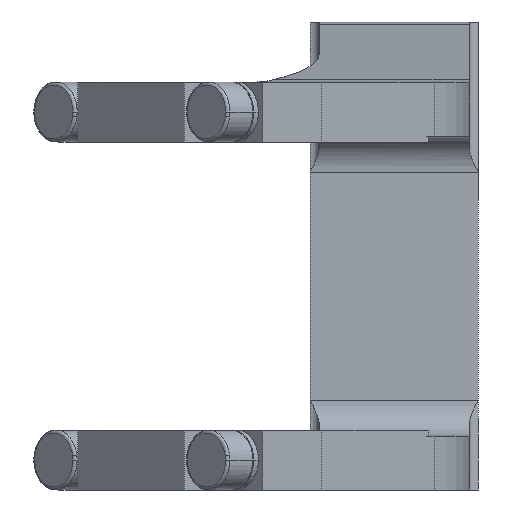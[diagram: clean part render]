
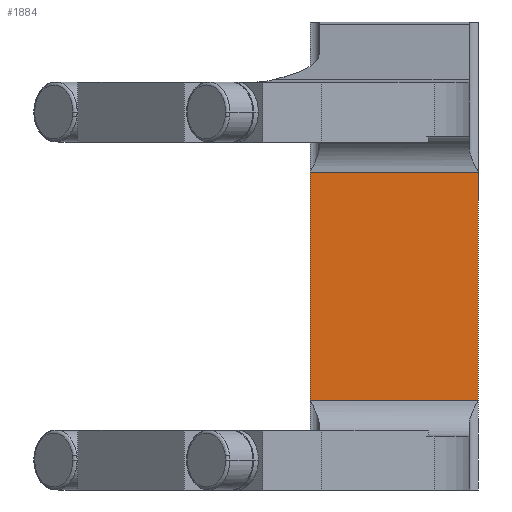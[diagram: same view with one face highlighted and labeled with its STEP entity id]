
A CAD part, front view. The second image highlights one B-rep face of the part: STEP entity #1884.
In plain terms, the highlighted planar face has unit normal (0, -1, 0).
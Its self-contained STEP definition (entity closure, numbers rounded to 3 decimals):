
#1370=CARTESIAN_POINT('Vertex',(15.,80.,19.)) ;
#1373=CARTESIAN_POINT('Line Origine',(-2.5,80.,19.)) ;
#1377=CARTESIAN_POINT('Vertex',(43.,80.,19.)) ;
#1854=CARTESIAN_POINT('Axis2P3D Location',(43.,80.,19.)) ;
#1859=CARTESIAN_POINT('Line Origine',(15.,80.,0.)) ;
#1863=CARTESIAN_POINT('Vertex',(15.,80.,-19.)) ;
#1866=CARTESIAN_POINT('Line Origine',(29.,80.,-19.)) ;
#1870=CARTESIAN_POINT('Vertex',(43.,80.,-19.)) ;
#1873=CARTESIAN_POINT('Line Origine',(43.,80.,0.)) ;
#1374=DIRECTION('Vector Direction',(1.,0.,0.)) ;
#1855=DIRECTION('Axis2P3D Direction',(0.,1.,0.)) ;
#1856=DIRECTION('Axis2P3D XDirection',(1.,0.,0.)) ;
#1860=DIRECTION('Vector Direction',(0.,0.,1.)) ;
#1867=DIRECTION('Vector Direction',(-1.,0.,0.)) ;
#1874=DIRECTION('Vector Direction',(0.,0.,1.)) ;
#1857=AXIS2_PLACEMENT_3D('Plane Axis2P3D',#1854,#1855,#1856) ;
#1879=ORIENTED_EDGE('',*,*,#1865,.F.) ;
#1880=ORIENTED_EDGE('',*,*,#1872,.F.) ;
#1881=ORIENTED_EDGE('',*,*,#1877,.T.) ;
#1882=ORIENTED_EDGE('',*,*,#1379,.T.) ;
#1375=VECTOR('Line Direction',#1374,1.) ;
#1861=VECTOR('Line Direction',#1860,1.) ;
#1868=VECTOR('Line Direction',#1867,1.) ;
#1875=VECTOR('Line Direction',#1874,1.) ;
#1884=ADVANCED_FACE('NONE',(#1883),#1858,.F.) ;
#1379=EDGE_CURVE('',#1378,#1371,#1376,.F.) ;
#1865=EDGE_CURVE('',#1864,#1371,#1862,.T.) ;
#1872=EDGE_CURVE('',#1871,#1864,#1869,.T.) ;
#1877=EDGE_CURVE('',#1871,#1378,#1876,.T.) ;
#1878=EDGE_LOOP('',(#1879,#1880,#1881,#1882)) ;
#1883=FACE_OUTER_BOUND('',#1878,.T.) ;
#1376=LINE('Line',#1373,#1375) ;
#1862=LINE('Line',#1859,#1861) ;
#1869=LINE('Line',#1866,#1868) ;
#1876=LINE('Line',#1873,#1875) ;
#1858=PLANE('Plane',#1857) ;
#1371=VERTEX_POINT('',#1370) ;
#1378=VERTEX_POINT('',#1377) ;
#1864=VERTEX_POINT('',#1863) ;
#1871=VERTEX_POINT('',#1870) ;
